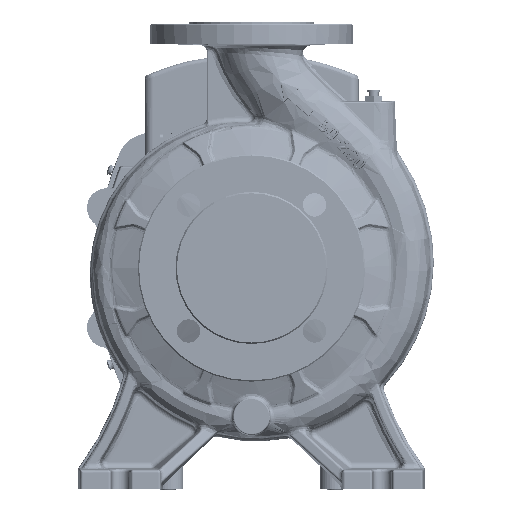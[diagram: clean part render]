
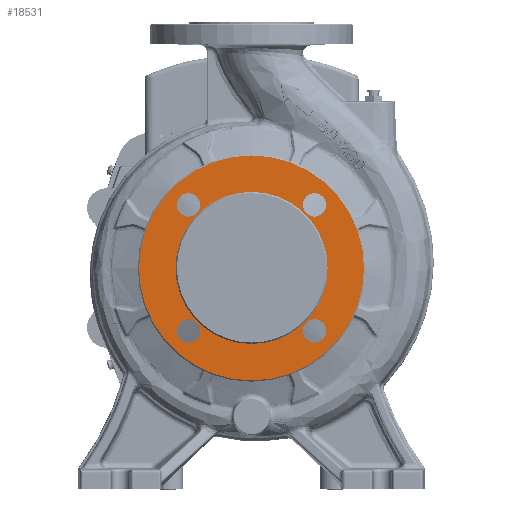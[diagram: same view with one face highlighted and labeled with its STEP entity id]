
A CAD part, left-side view. The second image highlights one B-rep face of the part: STEP entity #18531.
In plain terms, the highlighted planar face has unit normal (-1, 0, 0).
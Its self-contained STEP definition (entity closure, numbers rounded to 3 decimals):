
#2194 = CARTESIAN_POINT ( 'NONE',  ( -231.052, -91.5, 0. ) ) ;
#10459 = DIRECTION ( 'NONE',  ( 0., 1., 0. ) ) ;
#13535 = DIRECTION ( 'NONE',  ( 0., 1., 0. ) ) ;
#14488 = DIRECTION ( 'NONE',  ( -1., 0., 0. ) ) ;
#17437 = DIRECTION ( 'NONE',  ( 0., 1., 0. ) ) ;
#18531 = ADVANCED_FACE ( 'NONE', ( #25258, #95421, #136177, #139902, #93557, #108708 ), #167408, .F. ) ;
#18815 = VERTEX_POINT ( 'NONE', #136644 ) ;
#21089 = CIRCLE ( 'NONE', #69525, 61.863 ) ;
#21601 = DIRECTION ( 'NONE',  ( -1., 0., 0. ) ) ;
#22578 = VERTEX_POINT ( 'NONE', #2194 ) ;
#23766 = CIRCLE ( 'NONE', #99454, 9.5 ) ;
#24161 = DIRECTION ( 'NONE',  ( 0., 1., 0. ) ) ;
#25258 = FACE_OUTER_BOUND ( 'NONE', #127429, .T. ) ;
#25836 = VERTEX_POINT ( 'NONE', #141703 ) ;
#26258 = EDGE_CURVE ( 'NONE', #129924, #92209, #56369, .T. ) ;
#26600 = CARTESIAN_POINT ( 'NONE',  ( -231.052, 0., 0. ) ) ;
#27066 = ORIENTED_EDGE ( 'NONE', *, *, #97942, .F. ) ;
#31200 = DIRECTION ( 'NONE',  ( 0., 1., 0. ) ) ;
#33204 = VERTEX_POINT ( 'NONE', #134043 ) ;
#34161 = CARTESIAN_POINT ( 'NONE',  ( -231.052, 44.548, 57.983 ) ) ;
#37564 = VERTEX_POINT ( 'NONE', #178822 ) ;
#37944 = AXIS2_PLACEMENT_3D ( 'NONE', #26600, #69258, #54089 ) ;
#40149 = CARTESIAN_POINT ( 'NONE',  ( -231.052, -51.265, -51.265 ) ) ;
#41501 = AXIS2_PLACEMENT_3D ( 'NONE', #103219, #160979, #31200 ) ;
#46335 = CIRCLE ( 'NONE', #100849, 9.5 ) ;
#46602 = CARTESIAN_POINT ( 'NONE',  ( -231.052, 57.983, -44.548 ) ) ;
#48131 = EDGE_LOOP ( 'NONE', ( #27066, #90040 ) ) ;
#49909 = DIRECTION ( 'NONE',  ( 0., 1., 0. ) ) ;
#52120 = ORIENTED_EDGE ( 'NONE', *, *, #165321, .T. ) ;
#54089 = DIRECTION ( 'NONE',  ( 0., 1., 0. ) ) ;
#56369 = CIRCLE ( 'NONE', #186467, 9.5 ) ;
#57466 = EDGE_CURVE ( 'NONE', #18815, #37564, #123217, .T. ) ;
#57949 = ORIENTED_EDGE ( 'NONE', *, *, #26258, .F. ) ;
#58159 = EDGE_LOOP ( 'NONE', ( #90084, #121030 ) ) ;
#58178 = CARTESIAN_POINT ( 'NONE',  ( -231.052, 57.983, 44.548 ) ) ;
#59059 = CIRCLE ( 'NONE', #83308, 9.5 ) ;
#59077 = EDGE_CURVE ( 'NONE', #138543, #33204, #172027, .T. ) ;
#60857 = EDGE_CURVE ( 'NONE', #168763, #75886, #21089, .T. ) ;
#63190 = CARTESIAN_POINT ( 'NONE',  ( -231.052, 51.265, 51.265 ) ) ;
#69258 = DIRECTION ( 'NONE',  ( 1., 0., 0. ) ) ;
#69525 = AXIS2_PLACEMENT_3D ( 'NONE', #179685, #164518, #49909 ) ;
#74353 = CARTESIAN_POINT ( 'NONE',  ( -231.052, -61.863, -0.083 ) ) ;
#75886 = VERTEX_POINT ( 'NONE', #126575 ) ;
#78048 = CARTESIAN_POINT ( 'NONE',  ( -231.052, 0., 0. ) ) ;
#78192 = AXIS2_PLACEMENT_3D ( 'NONE', #40149, #87520, #145286 ) ;
#78687 = EDGE_CURVE ( 'NONE', #25836, #22578, #169144, .T. ) ;
#82148 = DIRECTION ( 'NONE',  ( 1., 0., 0. ) ) ;
#83308 = AXIS2_PLACEMENT_3D ( 'NONE', #130480, #86974, #144744 ) ;
#85297 = CARTESIAN_POINT ( 'NONE',  ( -231.052, 0., 0. ) ) ;
#86974 = DIRECTION ( 'NONE',  ( -1., 0., 0. ) ) ;
#87520 = DIRECTION ( 'NONE',  ( -1., 0., 0. ) ) ;
#90040 = ORIENTED_EDGE ( 'NONE', *, *, #159207, .F. ) ;
#90084 = ORIENTED_EDGE ( 'NONE', *, *, #60857, .T. ) ;
#92209 = VERTEX_POINT ( 'NONE', #34161 ) ;
#93557 = FACE_BOUND ( 'NONE', #184820, .T. ) ;
#95421 = FACE_BOUND ( 'NONE', #122551, .T. ) ;
#97942 = EDGE_CURVE ( 'NONE', #107116, #148066, #59059, .T. ) ;
#99454 = AXIS2_PLACEMENT_3D ( 'NONE', #178883, #21601, #110638 ) ;
#100849 = AXIS2_PLACEMENT_3D ( 'NONE', #109437, #152970, #24161 ) ;
#103008 = EDGE_CURVE ( 'NONE', #92209, #129924, #144289, .T. ) ;
#103219 = CARTESIAN_POINT ( 'NONE',  ( -231.052, -51.265, 51.265 ) ) ;
#104906 = DIRECTION ( 'NONE',  ( 0., 1., 0. ) ) ;
#107116 = VERTEX_POINT ( 'NONE', #46602 ) ;
#107498 = CIRCLE ( 'NONE', #37944, 61.863 ) ;
#108708 = FACE_BOUND ( 'NONE', #121352, .T. ) ;
#109437 = CARTESIAN_POINT ( 'NONE',  ( -231.052, -51.265, -51.265 ) ) ;
#110638 = DIRECTION ( 'NONE',  ( 0., 1., 0. ) ) ;
#112205 = ORIENTED_EDGE ( 'NONE', *, *, #57466, .F. ) ;
#113351 = DIRECTION ( 'NONE',  ( 0., 1., 0. ) ) ;
#116162 = DIRECTION ( 'NONE',  ( -1., 0., 0. ) ) ;
#120204 = EDGE_CURVE ( 'NONE', #75886, #168763, #107498, .T. ) ;
#121030 = ORIENTED_EDGE ( 'NONE', *, *, #120204, .T. ) ;
#121352 = EDGE_LOOP ( 'NONE', ( #179222, #57949 ) ) ;
#122551 = EDGE_LOOP ( 'NONE', ( #181240, #112205 ) ) ;
#123217 = CIRCLE ( 'NONE', #41501, 9.5 ) ;
#126575 = CARTESIAN_POINT ( 'NONE',  ( -231.052, 61.863, 0.083 ) ) ;
#127429 = EDGE_LOOP ( 'NONE', ( #169164, #52120 ) ) ;
#128160 = CARTESIAN_POINT ( 'NONE',  ( -231.052, 51.265, 51.265 ) ) ;
#129924 = VERTEX_POINT ( 'NONE', #58178 ) ;
#130480 = CARTESIAN_POINT ( 'NONE',  ( -231.052, 51.265, -51.265 ) ) ;
#132888 = AXIS2_PLACEMENT_3D ( 'NONE', #78048, #147241, #17437 ) ;
#134043 = CARTESIAN_POINT ( 'NONE',  ( -231.052, -57.983, -44.548 ) ) ;
#134808 = CARTESIAN_POINT ( 'NONE',  ( -231.052, -44.548, -57.983 ) ) ;
#135698 = EDGE_CURVE ( 'NONE', #33204, #138543, #46335, .T. ) ;
#136177 = FACE_BOUND ( 'NONE', #48131, .T. ) ;
#136644 = CARTESIAN_POINT ( 'NONE',  ( -231.052, -44.548, 57.983 ) ) ;
#136927 = ORIENTED_EDGE ( 'NONE', *, *, #59077, .F. ) ;
#138324 = AXIS2_PLACEMENT_3D ( 'NONE', #63190, #180610, #104906 ) ;
#138543 = VERTEX_POINT ( 'NONE', #134808 ) ;
#138998 = CARTESIAN_POINT ( 'NONE',  ( -231.052, 5.093, -0.083 ) ) ;
#139902 = FACE_BOUND ( 'NONE', #58159, .T. ) ;
#141703 = CARTESIAN_POINT ( 'NONE',  ( -231.052, 91.5, 0. ) ) ;
#142775 = CIRCLE ( 'NONE', #145902, 9.5 ) ;
#143937 = AXIS2_PLACEMENT_3D ( 'NONE', #85297, #157266, #10459 ) ;
#144289 = CIRCLE ( 'NONE', #138324, 9.5 ) ;
#144744 = DIRECTION ( 'NONE',  ( 0., 1., 0. ) ) ;
#145286 = DIRECTION ( 'NONE',  ( 0., 1., 0. ) ) ;
#145902 = AXIS2_PLACEMENT_3D ( 'NONE', #155989, #116162, #113351 ) ;
#147241 = DIRECTION ( 'NONE',  ( -1., 0., 0. ) ) ;
#148066 = VERTEX_POINT ( 'NONE', #153917 ) ;
#152970 = DIRECTION ( 'NONE',  ( -1., 0., 0. ) ) ;
#153917 = CARTESIAN_POINT ( 'NONE',  ( -231.052, 44.548, -57.983 ) ) ;
#155989 = CARTESIAN_POINT ( 'NONE',  ( -231.052, 51.265, -51.265 ) ) ;
#156181 = AXIS2_PLACEMENT_3D ( 'NONE', #138998, #82148, #179746 ) ;
#157266 = DIRECTION ( 'NONE',  ( -1., 0., 0. ) ) ;
#159207 = EDGE_CURVE ( 'NONE', #148066, #107116, #142775, .T. ) ;
#160979 = DIRECTION ( 'NONE',  ( -1., 0., 0. ) ) ;
#162189 = CIRCLE ( 'NONE', #143937, 91.5 ) ;
#164518 = DIRECTION ( 'NONE',  ( 1., 0., 0. ) ) ;
#165321 = EDGE_CURVE ( 'NONE', #22578, #25836, #162189, .T. ) ;
#167408 = PLANE ( 'NONE',  #156181 ) ;
#168763 = VERTEX_POINT ( 'NONE', #74353 ) ;
#169144 = CIRCLE ( 'NONE', #132888, 91.5 ) ;
#169164 = ORIENTED_EDGE ( 'NONE', *, *, #78687, .T. ) ;
#172027 = CIRCLE ( 'NONE', #78192, 9.5 ) ;
#175881 = ORIENTED_EDGE ( 'NONE', *, *, #135698, .F. ) ;
#178822 = CARTESIAN_POINT ( 'NONE',  ( -231.052, -57.983, 44.548 ) ) ;
#178883 = CARTESIAN_POINT ( 'NONE',  ( -231.052, -51.265, 51.265 ) ) ;
#179222 = ORIENTED_EDGE ( 'NONE', *, *, #103008, .F. ) ;
#179685 = CARTESIAN_POINT ( 'NONE',  ( -231.052, 0., 0. ) ) ;
#179746 = DIRECTION ( 'NONE',  ( 0., -1., 0. ) ) ;
#180610 = DIRECTION ( 'NONE',  ( -1., 0., 0. ) ) ;
#181240 = ORIENTED_EDGE ( 'NONE', *, *, #184096, .F. ) ;
#184096 = EDGE_CURVE ( 'NONE', #37564, #18815, #23766, .T. ) ;
#184820 = EDGE_LOOP ( 'NONE', ( #136927, #175881 ) ) ;
#186467 = AXIS2_PLACEMENT_3D ( 'NONE', #128160, #14488, #13535 ) ;
